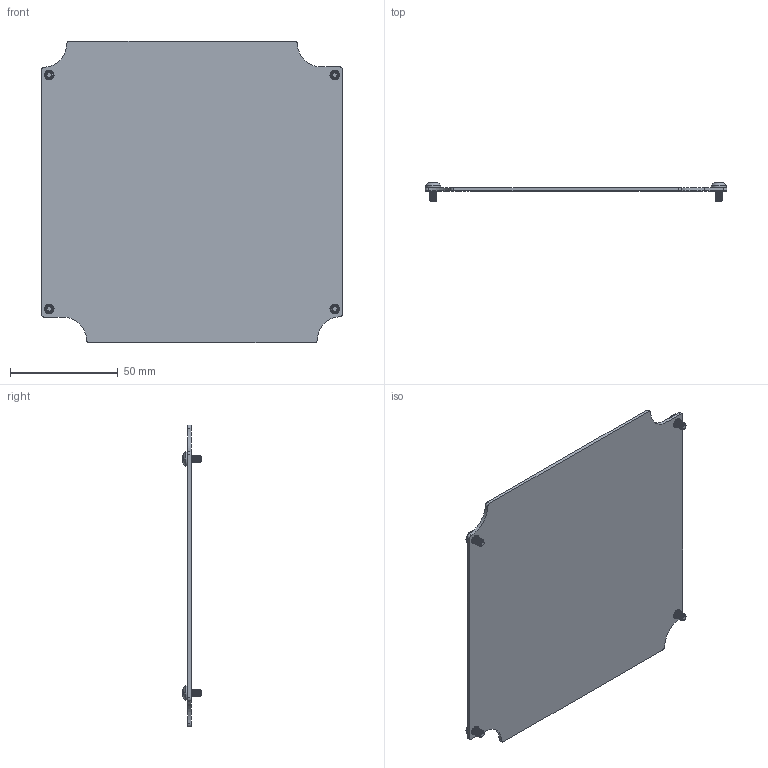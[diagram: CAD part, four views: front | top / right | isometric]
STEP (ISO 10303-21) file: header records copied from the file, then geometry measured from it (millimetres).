
FILE_DESCRIPTION (( 'STEP AP214' ), '1' );
FILE_NAME ('AN-10K.step', '2026-09-17T19:31:45', ( '' ), ( '' ), 'SwSTEP 2.0', 'SolidWorks 2026', '' );
FILE_SCHEMA (( 'AUTOMOTIVE_DESIGN' ));
Length unit declared in the file: inch
Products named in the file (3): AN-10-P_DEFAULT; SCREWS-050; AN-10K
Assembly tree (5 placements, depth 2):
  AN-10K
    AN-10-P_DEFAULT
    SCREWS-050  x4
Bounding box: 140.3 x 8.8 x 140.3 mm (x, y, z)
Volume: 29259.9 mm3; surface area: 39545.7 mm2
Topology: 5 solids, 5 shells, 1368 faces, 3306 edges, 1944 vertices
Faces by surface type: bspline 736, cylinder 332, plane 108, sphere 96, cone 80, torus 16
Entity records: 17338 total; most frequent: CARTESIAN_POINT 10049, ORIENTED_EDGE 1766, DIRECTION 1043, EDGE_CURVE 883, VERTEX_POINT 525, B_SPLINE_CURVE_WITH_KNOTS 415, AXIS2_PLACEMENT_3D 388, EDGE_LOOP 372
